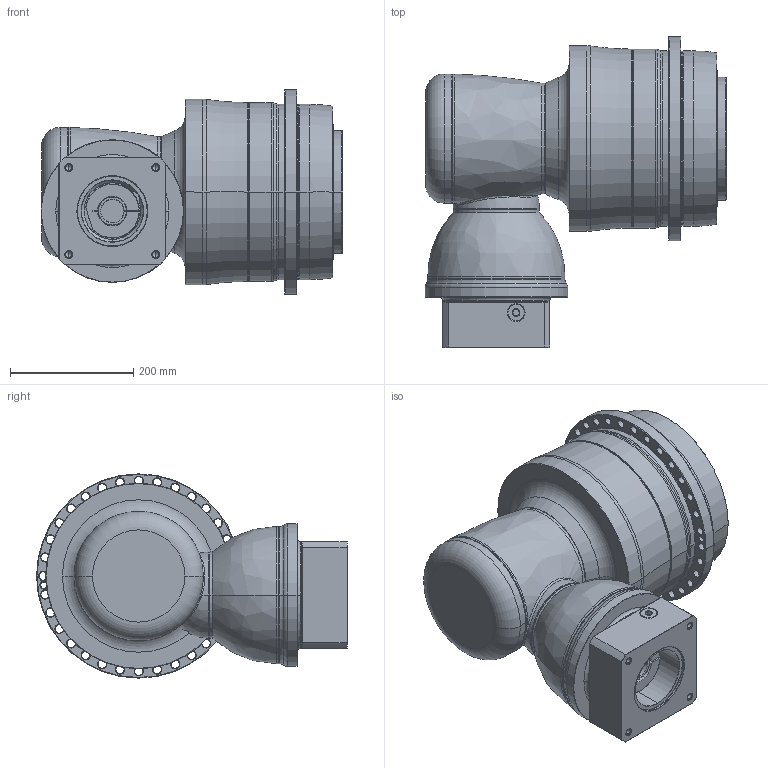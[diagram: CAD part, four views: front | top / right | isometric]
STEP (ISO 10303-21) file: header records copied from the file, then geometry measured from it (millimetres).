
FILE_DESCRIPTION((''),'2;1');
FILE_NAME('APK285_3ST_38-P0409910201_ASM','2018-11-22T',('D00080'),(''),'PRO/ENGINEER BY PARAMETRIC TECHNOLOGY CORPORATION, 2015240','PRO/ENGINEER BY PARAMETRIC TECHNOLOGY CORPORATION, 2015240','');
FILE_SCHEMA(('CONFIG_CONTROL_DESIGN'));
Length unit declared in the file: millimetre
Products named in the file (13): P1008600002; P1832810001; P0278801003; P0359801103; P1211800001; P1315600001; P1007601001; P1318610201; P0503900012; P0912652001; P0409910201; 21711422019; APK285_3ST_38-P0409910201_ASM
Assembly tree (12 placements, depth 2):
  APK285_3ST_38-P0409910201_ASM
    P1008600002
    P1832810001
    P0278801003
    P0359801103
    P1211800001
    P1315600001
    P1007601001
    P1318610201
    P0503900012
    P0912652001
    P0409910201
    21711422019
Bounding box: 491 x 505.5 x 332 mm (x, y, z)
Volume: 30501295.9 mm3; surface area: 1762214.1 mm2
Topology: 13 solids, 36 shells, 800 faces, 1818 edges, 1087 vertices
Faces by surface type: cylinder 309, cone 252, plane 121, torus 83, bspline 33, sphere 2
Entity records: 29014 total; most frequent: CARTESIAN_POINT 10345, DIRECTION 4285, ORIENTED_EDGE 3470, AXIS2_PLACEMENT_3D 1829, EDGE_CURVE 1782, VERTEX_POINT 1087, CIRCLE 1025, EDGE_LOOP 963
